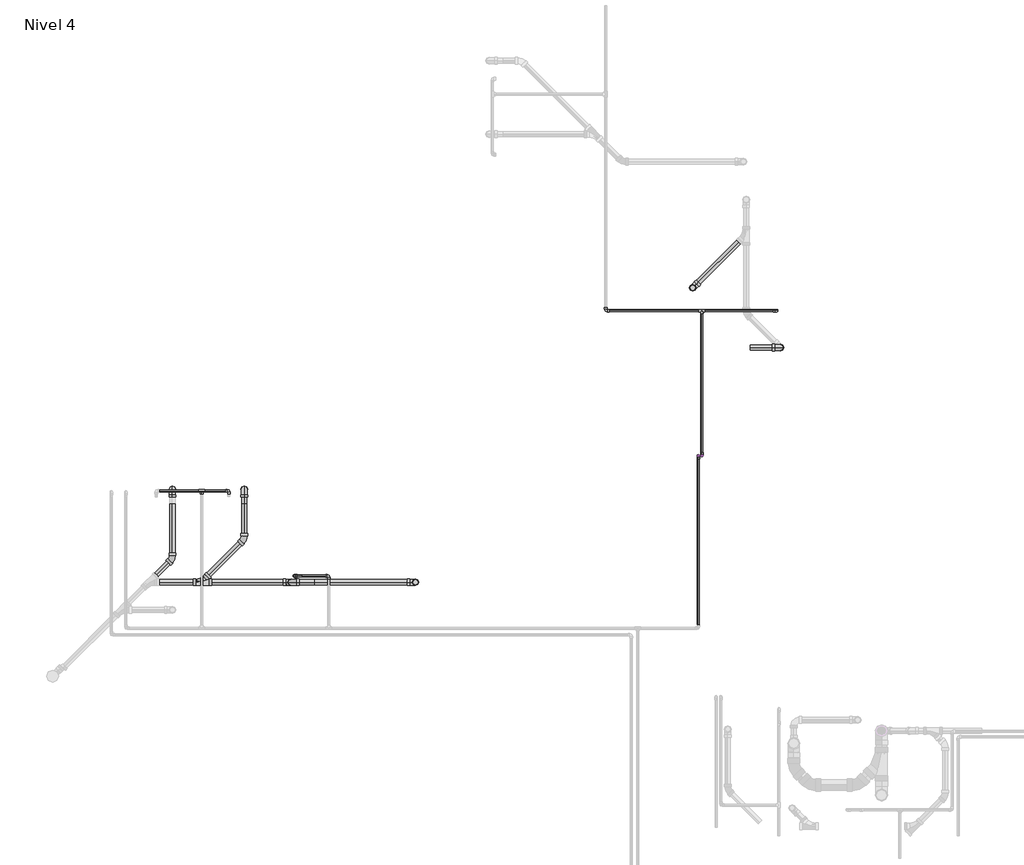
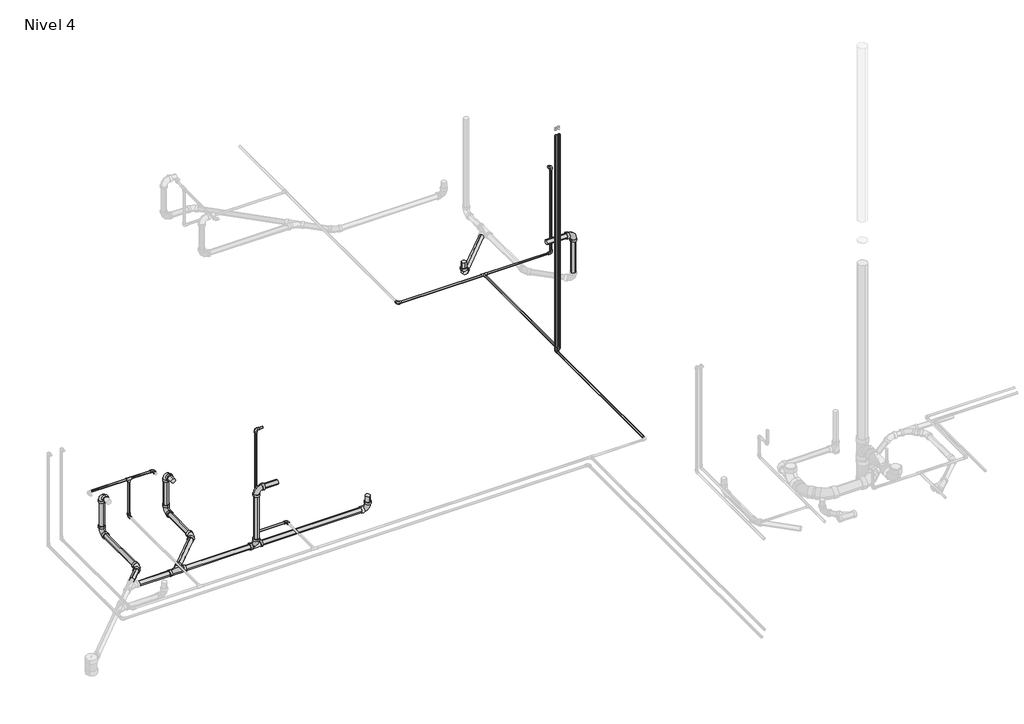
# One storey, part 5 of 9: 32 pipe segments, 24 pipe fittings.
"""IFC4 building model written with IfcOpenShell, lengths in millimetres."""

from ifc_helpers import new_model, si_unit, point, frame, frame_2d, origin, place, context, project, spatial, circle_curve, trimmed, segment, composite_curve, outline, extrude, transform, mapped, element, save
from components import pipe_fitting_ab418b84, pipe_fitting_0163322b, pipe_fitting_6ef1482d, m_codo_pvc_serie_40_9ad74631, m_codo_pvc_serie_40_dwv1_5c0ec739, m_codo_pvc_serie_40_dwv1_6f1a2495

model = new_model("IFC4")

# Units and contexts
model_context = context("Model", 3, world=origin())
ifc_project = project(units=[si_unit("LENGTHUNIT", "METRE", prefix="MILLI")], contexts=[model_context])

# Site, building, storey
site = spatial("IfcSite", under=ifc_project)
building = spatial("IfcBuilding", under=site)
storey = spatial("IfcBuildingStorey", under=building, Name="Nivel 4", Elevation=8100.0)

# Pipe fittings
placement = place(None, origin())
pipe_fitting_shape = pipe_fitting_ab418b84(model_context)
element("IfcPipeFitting", 1, ObjectType="M_Te - PVC - Serie 40 : Estándar", at=placement, inside=storey, context=model_context, shape_type="MappedRepresentation", body=[
    mapped(pipe_fitting_shape, transform((411.6630441, 9037.0181394, 8500.0), x_axis=(-1.0, 0.0, 0.0), y_axis=(0.0, 0.0, 1.0), z_axis=(0.0, 1.0, 0.0))),
])
element("IfcPipeFitting", 2, ObjectType="M_Te - PVC - Serie 40 : Estándar", at=placement, inside=storey, context=model_context, shape_type="MappedRepresentation", body=[
    mapped(pipe_fitting_shape, transform((5577.0674476, 10897.0181394, 8050.0), x_axis=(1.0, 0.0, 0.0), y_axis=(0.0, 1.0, 0.0), z_axis=(0.0, 0.0, 1.0))),
])
pipe_fitting_2_shape = pipe_fitting_0163322b(model_context)
element("IfcPipeFitting", 3, ObjectType="M_Sanitario con te de reducción - PVC - Serie 40 - DWV : Estándar", at=placement, inside=storey, context=model_context, shape_type="MappedRepresentation", body=[
    mapped(pipe_fitting_2_shape, transform((406.2028878, 8091.4220022, 7950.0), x_axis=(1.0, 0.0, 0.0), y_axis=(0.0, -1.0, 0.0), z_axis=(0.0, 0.0, -1.0))),
])
pipe_fitting_3_shape = pipe_fitting_6ef1482d(model_context)
element("IfcPipeFitting", 4, ObjectType="M_Sanitario con te de reducción - PVC - Serie 40 - DWV : Estándar", at=placement, inside=storey, context=model_context, shape_type="MappedRepresentation", body=[
    mapped(pipe_fitting_3_shape, transform((1335.9354338, 8091.4220022, 7950.0), x_axis=(1.0, 0.0, 0.0), y_axis=(0.0, 0.0, -1.0), z_axis=(0.0, 1.0, 0.0))),
])
m_codo_pvc_serie_40_shape = m_codo_pvc_serie_40_9ad74631(model_context)
element("IfcPipeFitting", 5, ObjectType="M_Codo - PVC - Serie 40 : Estándar", at=placement, inside=storey, context=model_context, shape_type="MappedRepresentation", body=[
    mapped(m_codo_pvc_serie_40_shape, transform((1725.1353284, 8157.0181394, 8050.0), x_axis=(0.0, 1.0, 0.0), y_axis=(-1.0, 0.0, 0.0), z_axis=(0.0, 0.0, 1.0))),
])
element("IfcPipeFitting", 6, ObjectType="M_Codo - PVC - Serie 40 : Estándar", at=placement, inside=storey, context=model_context, shape_type="MappedRepresentation", body=[
    mapped(m_codo_pvc_serie_40_shape, transform((1365.1353284, 8157.0181394, 8050.0), x_axis=(-1.0, 0.0, 0.0), y_axis=(0.0, 0.0, 1.0), z_axis=(0.0, 1.0, 0.0))),
])
element("IfcPipeFitting", 7, ObjectType="M_Codo - PVC - Serie 40 : Estándar", at=placement, inside=storey, context=model_context, shape_type="MappedRepresentation", body=[
    mapped(m_codo_pvc_serie_40_shape, transform((1365.1353284, 8157.0181394, 9300.0), x_axis=(0.0, 0.0, 1.0), y_axis=(1.0, 0.0, 0.0), z_axis=(0.0, 1.0, 0.0))),
])
element("IfcPipeFitting", 8, ObjectType="M_Codo - PVC - Serie 40 : Estándar", at=placement, inside=storey, context=model_context, shape_type="MappedRepresentation", body=[
    mapped(m_codo_pvc_serie_40_shape, transform((411.6630441, 9037.0181394, 8050.0), x_axis=(0.0, 1.0, 0.0), y_axis=(0.0, 0.0, 1.0), z_axis=(1.0, 0.0, 0.0))),
])
element("IfcPipeFitting", 9, ObjectType="M_Codo - PVC - Serie 40 : Estándar", at=placement, inside=storey, context=model_context, shape_type="MappedRepresentation", body=[
    mapped(m_codo_pvc_serie_40_shape, transform((691.6630441, 9037.0181394, 8500.0), x_axis=(0.0, 1.0, 0.0), y_axis=(-1.0, 0.0, 0.0), z_axis=(0.0, 0.0, 1.0))),
])
element("IfcPipeFitting", 10, ObjectType="M_Codo - PVC - Serie 40 : Estándar", at=placement, inside=storey, context=model_context, shape_type="MappedRepresentation", body=[
    mapped(m_codo_pvc_serie_40_shape, transform((4584.5674476, 10897.0181394, 8050.0), x_axis=(0.0, -1.0, 0.0), y_axis=(1.0, 0.0, 0.0), z_axis=(0.0, 0.0, 1.0))),
])
element("IfcPipeFitting", 11, ObjectType="M_Codo - PVC - Serie 40 : Estándar", at=placement, inside=storey, context=model_context, shape_type="MappedRepresentation", body=[
    mapped(m_codo_pvc_serie_40_shape, transform((6348.7776039, 10897.0181394, 8050.0), x_axis=(1.0, 0.0, 0.0), y_axis=(0.0, 0.0, 1.0), z_axis=(0.0, -1.0, 0.0))),
])
element("IfcPipeFitting", 12, ObjectType="M_Codo - PVC - Serie 40 : Estándar", at=placement, inside=storey, context=model_context, shape_type="MappedRepresentation", body=[
    mapped(m_codo_pvc_serie_40_shape, transform((6348.7776039, 10897.0181394, 9100.0), x_axis=(0.0, 0.0, 1.0), y_axis=(-1.0, 0.0, 0.0), z_axis=(0.0, -1.0, 0.0))),
])
element("IfcPipeFitting", 13, ObjectType="M_Codo - PVC - Serie 40 : Estándar", at=placement, inside=storey, context=model_context, shape_type="MappedRepresentation", body=[
    mapped(m_codo_pvc_serie_40_shape, transform((5541.6630441, 9398.2681394, 8050.0), x_axis=(0.0, 1.0, 0.0), y_axis=(0.0, 0.0, 1.0), z_axis=(1.0, 0.0, 0.0))),
])
element("IfcPipeFitting", 14, ObjectType="M_Codo - PVC - Serie 40 : Estándar", at=placement, inside=storey, context=model_context, shape_type="MappedRepresentation", body=[
    mapped(m_codo_pvc_serie_40_shape, transform((5577.0674476, 9399.5181394, 8050.0), x_axis=(0.0, -1.0, 0.0), y_axis=(0.0, 0.0, 1.0), z_axis=(-1.0, 0.0, 0.0))),
])
m_codo_pvc_serie_40_dwv1_shape = m_codo_pvc_serie_40_dwv1_5c0ec739(model_context)
element("IfcPipeFitting", 15, ObjectType="M_Codo - PVC - Serie 40 - DWV1 : Estándar 2", at=placement, inside=storey, context=model_context, shape_type="MappedRepresentation", body=[
    mapped(m_codo_pvc_serie_40_dwv1_shape, transform((6387.7966771, 10516.9594307, 8500.0), x_axis=(1.0, 0.0, 0.0), y_axis=(0.0, 0.0, -1.0), z_axis=(0.0, 1.0, 0.0))),
])
element("IfcPipeFitting", 16, ObjectType="M_Codo - PVC - Serie 40 - DWV1 : Estándar 2", at=placement, inside=storey, context=model_context, shape_type="MappedRepresentation", body=[
    mapped(m_codo_pvc_serie_40_dwv1_shape, transform((5482.7118337, 11133.8085879, 7950.0), x_axis=(-0.7071067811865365, -0.7071067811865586, 0.0), y_axis=(0.0, 0.0, 1.0), z_axis=(-0.7071067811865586, 0.7071067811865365, 0.0))),
])
element("IfcPipeFitting", 17, ObjectType="M_Codo - PVC - Serie 40 - DWV1 : Estándar 2", at=placement, inside=storey, context=model_context, shape_type="MappedRepresentation", body=[
    mapped(m_codo_pvc_serie_40_dwv1_shape, transform((109.5958692, 9052.7311146, 8400.0), x_axis=(0.0, 1.0, 0.0), y_axis=(0.0, 0.0, -1.0), z_axis=(-1.0, 0.0, 0.0))),
])
element("IfcPipeFitting", 18, ObjectType="M_Codo - PVC - Serie 40 - DWV1 : Estándar 2", at=placement, inside=storey, context=model_context, shape_type="MappedRepresentation", body=[
    mapped(m_codo_pvc_serie_40_dwv1_shape, transform((109.5958692, 9052.7311146, 7950.0), x_axis=(0.0, 0.0, -1.0), y_axis=(0.0, -1.0, 0.0), z_axis=(-1.0, 0.0, 0.0))),
])
element("IfcPipeFitting", 19, ObjectType="M_Codo - PVC - Serie 40 - DWV1 : Estándar 2", at=placement, inside=storey, context=model_context, shape_type="MappedRepresentation", body=[
    mapped(m_codo_pvc_serie_40_dwv1_shape, transform((849.5958692, 9052.7311146, 8400.0), x_axis=(0.0, 1.0, 0.0), y_axis=(0.0, 0.0, -1.0), z_axis=(-1.0, 0.0, 0.0))),
])
element("IfcPipeFitting", 20, ObjectType="M_Codo - PVC - Serie 40 - DWV1 : Estándar 2", at=placement, inside=storey, context=model_context, shape_type="MappedRepresentation", body=[
    mapped(m_codo_pvc_serie_40_dwv1_shape, transform((849.5958692, 9052.7311146, 7950.0), x_axis=(0.0, 0.0, -1.0), y_axis=(0.0, -1.0, 0.0), z_axis=(-1.0, 0.0, 0.0))),
])
element("IfcPipeFitting", 21, ObjectType="M_Codo - PVC - Serie 40 - DWV1 : Estándar 2", at=placement, inside=storey, context=model_context, shape_type="MappedRepresentation", body=[
    mapped(m_codo_pvc_serie_40_dwv1_shape, transform((1335.9354338, 8091.4220022, 8630.0), x_axis=(0.0, 0.0, 1.0), y_axis=(1.0, 0.0, 0.0), z_axis=(0.0, 1.0, 0.0))),
])
element("IfcPipeFitting", 22, ObjectType="M_Codo - PVC - Serie 40 - DWV1 : Estándar 2", at=placement, inside=storey, context=model_context, shape_type="MappedRepresentation", body=[
    mapped(m_codo_pvc_serie_40_dwv1_shape, transform((2619.133962, 8091.4220022, 7950.0), x_axis=(0.0, 0.0, -1.0), y_axis=(-1.0, 0.0, 0.0), z_axis=(0.0, 1.0, 0.0))),
])
m_codo_pvc_serie_40_dwv1_2_shape = m_codo_pvc_serie_40_dwv1_6f1a2495(model_context)
element("IfcPipeFitting", 23, ObjectType="M_Codo - PVC - Serie 40 - DWV1 : Estándar 2", at=placement, inside=storey, context=model_context, shape_type="MappedRepresentation", body=[
    mapped(m_codo_pvc_serie_40_dwv1_2_shape, transform((109.5958692, 8334.8149836, 7950.0), x_axis=(0.7071067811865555, 0.7071067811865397, 0.0), y_axis=(-0.7071067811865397, 0.7071067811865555, 0.0), z_axis=(0.0, 0.0, 1.0))),
])
element("IfcPipeFitting", 24, ObjectType="M_Codo - PVC - Serie 40 - DWV1 : Estándar 2", at=placement, inside=storey, context=model_context, shape_type="MappedRepresentation", body=[
    mapped(m_codo_pvc_serie_40_dwv1_2_shape, transform((849.5958692, 8534.8149836, 7950.0), x_axis=(0.7071067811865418, 0.7071067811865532, 0.0), y_axis=(-0.7071067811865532, 0.7071067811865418, 0.0), z_axis=(0.0, 0.0, 1.0))),
])

# Pipe segments
element("IfcPipeSegment", 25, ObjectType="Tuberia PVC Agua Fria", at=placement, inside=storey, context=model_context, shape_type="SweptSolid", body=[
    extrude(outline(composite_curve([segment(trimmed(circle_curve(frame_2d((8050.0, 5541.6630441)), 10.31875), [point((8050.0, 5551.9817941))], [point((8060.31875, 5541.6630441))], False, "CARTESIAN"), True, "CONTINUOUS"), segment(trimmed(circle_curve(frame_2d((8050.0, 5541.6630441)), 10.31875), [point((8060.31875, 5541.6630441))], [point((8050.0, 5531.3442941))], False, "CARTESIAN"), True, "CONTINUOUS"), segment(trimmed(circle_curve(frame_2d((8050.0, 5541.6630441)), 10.31875), [point((8050.0, 5531.3442941))], [point((8039.68125, 5541.6630441))], False, "CARTESIAN"), True, "CONTINUOUS"), segment(trimmed(circle_curve(frame_2d((8050.0, 5541.6630441)), 10.31875), [point((8039.68125, 5541.6630441))], [point((8050.0, 5551.9817941))], False, "CARTESIAN"), True, "CONTINUOUS")], self_intersect=False)), frame((0.0, 7650.4191394, 0.0), z_axis=(0.0, 1.0, 0.0), x_axis=(0.0, 0.0, 1.0)), (0.0, 0.0, 1.0), 1714.448),
])
element("IfcPipeSegment", 26, ObjectType="Tuberia PVC Agua Fria", at=placement, inside=storey, context=model_context, shape_type="SweptSolid", body=[
    extrude(outline(composite_curve([segment(trimmed(circle_curve(frame_2d((8157.0181394, 8050.0)), 10.31875), [point((8167.3368894, 8050.0))], [point((8157.0181394, 8039.68125))], False, "CARTESIAN"), True, "CONTINUOUS"), segment(trimmed(circle_curve(frame_2d((8157.0181394, 8050.0)), 10.31875), [point((8157.0181394, 8039.68125))], [point((8146.6993894, 8050.0))], False, "CARTESIAN"), True, "CONTINUOUS"), segment(trimmed(circle_curve(frame_2d((8157.0181394, 8050.0)), 10.31875), [point((8146.6993894, 8050.0))], [point((8157.0181394, 8060.31875))], False, "CARTESIAN"), True, "CONTINUOUS"), segment(trimmed(circle_curve(frame_2d((8157.0181394, 8050.0)), 10.31875), [point((8157.0181394, 8060.31875))], [point((8167.3368894, 8050.0))], False, "CARTESIAN"), True, "CONTINUOUS")], self_intersect=False)), frame((1398.5363284, 0.0, 0.0), z_axis=(1.0, 0.0, 0.0), x_axis=(0.0, 1.0, 0.0)), (0.0, 0.0, 1.0), 293.198),
])
element("IfcPipeSegment", 27, ObjectType="Tuberia PVC Agua Fria", at=placement, inside=storey, context=model_context, shape_type="SweptSolid", body=[
    extrude(outline(composite_curve([segment(trimmed(circle_curve(frame_2d((8157.0181394, 9300.0)), 10.31875), [point((8146.6993894, 9300.0))], [point((8157.0181394, 9310.31875))], False, "CARTESIAN"), True, "CONTINUOUS"), segment(trimmed(circle_curve(frame_2d((8157.0181394, 9300.0)), 10.31875), [point((8157.0181394, 9310.31875))], [point((8167.3368894, 9300.0))], False, "CARTESIAN"), True, "CONTINUOUS"), segment(trimmed(circle_curve(frame_2d((8157.0181394, 9300.0)), 10.31875), [point((8167.3368894, 9300.0))], [point((8157.0181394, 9289.68125))], False, "CARTESIAN"), True, "CONTINUOUS"), segment(trimmed(circle_curve(frame_2d((8157.0181394, 9300.0)), 10.31875), [point((8157.0181394, 9289.68125))], [point((8146.6993894, 9300.0))], False, "CARTESIAN"), True, "CONTINUOUS")], self_intersect=False)), frame((1398.5363284, 0.0, 0.0), z_axis=(1.0, 0.0, 0.0), x_axis=(0.0, 1.0, 0.0)), (0.0, 0.0, 1.0), 46.599),
])
element("IfcPipeSegment", 28, ObjectType="Tuberia PVC Agua Fria", at=placement, inside=storey, context=model_context, shape_type="SweptSolid", body=[
    extrude(outline(composite_curve([segment(trimmed(circle_curve(frame_2d((1365.1353284, 8157.0181394)), 10.31875), [point((1354.8165784, 8157.0181394))], [point((1365.1353284, 8167.3368894))], False, "CARTESIAN"), True, "CONTINUOUS"), segment(trimmed(circle_curve(frame_2d((1365.1353284, 8157.0181394)), 10.31875), [point((1365.1353284, 8167.3368894))], [point((1375.4540784, 8157.0181394))], False, "CARTESIAN"), True, "CONTINUOUS"), segment(trimmed(circle_curve(frame_2d((1365.1353284, 8157.0181394)), 10.31875), [point((1375.4540784, 8157.0181394))], [point((1365.1353284, 8146.6993894))], False, "CARTESIAN"), True, "CONTINUOUS"), segment(trimmed(circle_curve(frame_2d((1365.1353284, 8157.0181394)), 10.31875), [point((1365.1353284, 8146.6993894))], [point((1354.8165784, 8157.0181394))], False, "CARTESIAN"), True, "CONTINUOUS")], self_intersect=False)), frame((0.0, 0.0, 8083.401), z_axis=(0.0, 0.0, 1.0), x_axis=(1.0, 0.0, 0.0)), (0.0, 0.0, 1.0), 1183.198),
])
element("IfcPipeSegment", 29, ObjectType="Tuberia PVC Agua Fria", at=placement, inside=storey, context=model_context, shape_type="SweptSolid", body=[
    extrude(outline(composite_curve([segment(trimmed(circle_curve(frame_2d((9037.0181394, 8500.0)), 10.31875), [point((9026.6993894, 8500.0))], [point((9037.0181394, 8510.31875))], False, "CARTESIAN"), True, "CONTINUOUS"), segment(trimmed(circle_curve(frame_2d((9037.0181394, 8500.0)), 10.31875), [point((9037.0181394, 8510.31875))], [point((9047.3368894, 8500.0))], False, "CARTESIAN"), True, "CONTINUOUS"), segment(trimmed(circle_curve(frame_2d((9037.0181394, 8500.0)), 10.31875), [point((9047.3368894, 8500.0))], [point((9037.0181394, 8489.68125))], False, "CARTESIAN"), True, "CONTINUOUS"), segment(trimmed(circle_curve(frame_2d((9037.0181394, 8500.0)), 10.31875), [point((9037.0181394, 8489.68125))], [point((9026.6993894, 8500.0))], False, "CARTESIAN"), True, "CONTINUOUS")], self_intersect=False)), frame((442.1232003, 0.0, 0.0), z_axis=(1.0, 0.0, 0.0), x_axis=(0.0, 1.0, 0.0)), (0.0, 0.0, 1.0), 216.1388438),
])
element("IfcPipeSegment", 30, ObjectType="Tuberia PVC Agua Fria", at=placement, inside=storey, context=model_context, shape_type="SweptSolid", body=[
    extrude(outline(composite_curve([segment(trimmed(circle_curve(frame_2d((411.6630441, 9037.0181394)), 10.31875), [point((401.3442941, 9037.0181394))], [point((411.6630441, 9047.3368894))], False, "CARTESIAN"), True, "CONTINUOUS"), segment(trimmed(circle_curve(frame_2d((411.6630441, 9037.0181394)), 10.31875), [point((411.6630441, 9047.3368894))], [point((421.9817941, 9037.0181394))], False, "CARTESIAN"), True, "CONTINUOUS"), segment(trimmed(circle_curve(frame_2d((411.6630441, 9037.0181394)), 10.31875), [point((421.9817941, 9037.0181394))], [point((411.6630441, 9026.6993894))], False, "CARTESIAN"), True, "CONTINUOUS"), segment(trimmed(circle_curve(frame_2d((411.6630441, 9037.0181394)), 10.31875), [point((411.6630441, 9026.6993894))], [point((401.3442941, 9037.0181394))], False, "CARTESIAN"), True, "CONTINUOUS")], self_intersect=False)), frame((0.0, 0.0, 8083.401), z_axis=(0.0, 0.0, 1.0), x_axis=(1.0, 0.0, 0.0)), (0.0, 0.0, 1.0), 386.1388438),
])
element("IfcPipeSegment", 31, ObjectType="Tuberia PVC Agua Fria", at=placement, inside=storey, context=model_context, shape_type="SweptSolid", body=[
    extrude(outline(composite_curve([segment(trimmed(circle_curve(frame_2d((9037.0181394, 8500.0)), 10.31875), [point((9047.3368894, 8500.0))], [point((9037.0181394, 8489.68125))], False, "CARTESIAN"), True, "CONTINUOUS"), segment(trimmed(circle_curve(frame_2d((9037.0181394, 8500.0)), 10.31875), [point((9037.0181394, 8489.68125))], [point((9026.6993894, 8500.0))], False, "CARTESIAN"), True, "CONTINUOUS"), segment(trimmed(circle_curve(frame_2d((9037.0181394, 8500.0)), 10.31875), [point((9026.6993894, 8500.0))], [point((9037.0181394, 8510.31875))], False, "CARTESIAN"), True, "CONTINUOUS"), segment(trimmed(circle_curve(frame_2d((9037.0181394, 8500.0)), 10.31875), [point((9037.0181394, 8510.31875))], [point((9047.3368894, 8500.0))], False, "CARTESIAN"), True, "CONTINUOUS")], self_intersect=False)), frame((-25.3961122, 0.0, 0.0), z_axis=(1.0, 0.0, 0.0), x_axis=(0.0, 1.0, 0.0)), (0.0, 0.0, 1.0), 406.599),
])
element("IfcPipeSegment", 32, ObjectType="Tuberia PVC Agua Fria", at=placement, inside=storey, context=model_context, shape_type="SweptSolid", body=[
    extrude(outline(composite_curve([segment(trimmed(circle_curve(frame_2d((8050.0, 5577.0674476)), 10.31875), [point((8050.0, 5587.3861976))], [point((8060.31875, 5577.0674476))], False, "CARTESIAN"), True, "CONTINUOUS"), segment(trimmed(circle_curve(frame_2d((8050.0, 5577.0674476)), 10.31875), [point((8060.31875, 5577.0674476))], [point((8050.0, 5566.7486976))], False, "CARTESIAN"), True, "CONTINUOUS"), segment(trimmed(circle_curve(frame_2d((8050.0, 5577.0674476)), 10.31875), [point((8050.0, 5566.7486976))], [point((8039.68125, 5577.0674476))], False, "CARTESIAN"), True, "CONTINUOUS"), segment(trimmed(circle_curve(frame_2d((8050.0, 5577.0674476)), 10.31875), [point((8039.68125, 5577.0674476))], [point((8050.0, 5587.3861976))], False, "CARTESIAN"), True, "CONTINUOUS")], self_intersect=False)), frame((0.0, 9432.9191394, 0.0), z_axis=(0.0, 1.0, 0.0), x_axis=(0.0, 0.0, 1.0)), (0.0, 0.0, 1.0), 1433.6388437),
])
element("IfcPipeSegment", 33, ObjectType="Tuberia PVC Agua Fria", at=placement, inside=storey, context=model_context, shape_type="SweptSolid", body=[
    extrude(outline(composite_curve([segment(trimmed(circle_curve(frame_2d((10897.0181394, 8050.0)), 10.31875), [point((10907.3368894, 8050.0))], [point((10897.0181394, 8039.68125))], False, "CARTESIAN"), True, "CONTINUOUS"), segment(trimmed(circle_curve(frame_2d((10897.0181394, 8050.0)), 10.31875), [point((10897.0181394, 8039.68125))], [point((10886.6993894, 8050.0))], False, "CARTESIAN"), True, "CONTINUOUS"), segment(trimmed(circle_curve(frame_2d((10897.0181394, 8050.0)), 10.31875), [point((10886.6993894, 8050.0))], [point((10897.0181394, 8060.31875))], False, "CARTESIAN"), True, "CONTINUOUS"), segment(trimmed(circle_curve(frame_2d((10897.0181394, 8050.0)), 10.31875), [point((10897.0181394, 8060.31875))], [point((10907.3368894, 8050.0))], False, "CARTESIAN"), True, "CONTINUOUS")], self_intersect=False)), frame((4617.9684476, 0.0, 0.0), z_axis=(1.0, 0.0, 0.0), x_axis=(0.0, 1.0, 0.0)), (0.0, 0.0, 1.0), 928.6388438),
])
element("IfcPipeSegment", 34, ObjectType="Tuberia PVC Agua Fria", at=placement, inside=storey, context=model_context, shape_type="SweptSolid", body=[
    extrude(outline(composite_curve([segment(trimmed(circle_curve(frame_2d((10897.0181394, 8050.0)), 10.31875), [point((10886.6993894, 8050.0))], [point((10897.0181394, 8060.31875))], False, "CARTESIAN"), True, "CONTINUOUS"), segment(trimmed(circle_curve(frame_2d((10897.0181394, 8050.0)), 10.31875), [point((10897.0181394, 8060.31875))], [point((10907.3368894, 8050.0))], False, "CARTESIAN"), True, "CONTINUOUS"), segment(trimmed(circle_curve(frame_2d((10897.0181394, 8050.0)), 10.31875), [point((10907.3368894, 8050.0))], [point((10897.0181394, 8039.68125))], False, "CARTESIAN"), True, "CONTINUOUS"), segment(trimmed(circle_curve(frame_2d((10897.0181394, 8050.0)), 10.31875), [point((10897.0181394, 8039.68125))], [point((10886.6993894, 8050.0))], False, "CARTESIAN"), True, "CONTINUOUS")], self_intersect=False)), frame((5607.5276039, 0.0, 0.0), z_axis=(1.0, 0.0, 0.0), x_axis=(0.0, 1.0, 0.0)), (0.0, 0.0, 1.0), 707.849),
])
element("IfcPipeSegment", 35, ObjectType="Tuberia PVC Agua Fria", at=placement, inside=storey, context=model_context, shape_type="SweptSolid", body=[
    extrude(outline(composite_curve([segment(trimmed(circle_curve(frame_2d((6348.7776039, 10897.0181394)), 10.31875), [point((6338.4588539, 10897.0181394))], [point((6348.7776039, 10907.3368894))], False, "CARTESIAN"), True, "CONTINUOUS"), segment(trimmed(circle_curve(frame_2d((6348.7776039, 10897.0181394)), 10.31875), [point((6348.7776039, 10907.3368894))], [point((6359.0963539, 10897.0181394))], False, "CARTESIAN"), True, "CONTINUOUS"), segment(trimmed(circle_curve(frame_2d((6348.7776039, 10897.0181394)), 10.31875), [point((6359.0963539, 10897.0181394))], [point((6348.7776039, 10886.6993894))], False, "CARTESIAN"), True, "CONTINUOUS"), segment(trimmed(circle_curve(frame_2d((6348.7776039, 10897.0181394)), 10.31875), [point((6348.7776039, 10886.6993894))], [point((6338.4588539, 10897.0181394))], False, "CARTESIAN"), True, "CONTINUOUS")], self_intersect=False)), frame((0.0, 0.0, 8083.401), z_axis=(0.0, 0.0, 1.0), x_axis=(1.0, 0.0, 0.0)), (0.0, 0.0, 1.0), 983.198),
])
element("IfcPipeSegment", 36, ObjectType="Tuberia PVC Agua Fria", at=placement, inside=storey, context=model_context, shape_type="SweptSolid", body=[
    extrude(outline(composite_curve([segment(trimmed(circle_curve(frame_2d((5541.6630441, 9398.2681394)), 10.31875), [point((5531.3442941, 9398.2681394))], [point((5541.6630441, 9408.5868894))], False, "CARTESIAN"), True, "CONTINUOUS"), segment(trimmed(circle_curve(frame_2d((5541.6630441, 9398.2681394)), 10.31875), [point((5541.6630441, 9408.5868894))], [point((5551.9817941, 9398.2681394))], False, "CARTESIAN"), True, "CONTINUOUS"), segment(trimmed(circle_curve(frame_2d((5541.6630441, 9398.2681394)), 10.31875), [point((5551.9817941, 9398.2681394))], [point((5541.6630441, 9387.9493894))], False, "CARTESIAN"), True, "CONTINUOUS"), segment(trimmed(circle_curve(frame_2d((5541.6630441, 9398.2681394)), 10.31875), [point((5541.6630441, 9387.9493894))], [point((5531.3442941, 9398.2681394))], False, "CARTESIAN"), True, "CONTINUOUS")], self_intersect=False)), frame((0.0, 0.0, 10730.4601563), z_axis=(0.0, 0.0, 1.0), x_axis=(1.0, 0.0, 0.0)), (0.0, 0.0, 1.0), 30.7244062),
])
element("IfcPipeSegment", 37, ObjectType="Tuberia PVC Agua Fria", at=placement, inside=storey, context=model_context, shape_type="SweptSolid", body=[
    extrude(outline(composite_curve([segment(trimmed(circle_curve(frame_2d((5577.0674476, 9399.5181394)), 10.31875), [point((5566.7486976, 9399.5181394))], [point((5577.0674476, 9409.8368894))], False, "CARTESIAN"), True, "CONTINUOUS"), segment(trimmed(circle_curve(frame_2d((5577.0674476, 9399.5181394)), 10.31875), [point((5577.0674476, 9409.8368894))], [point((5587.3861976, 9399.5181394))], False, "CARTESIAN"), True, "CONTINUOUS"), segment(trimmed(circle_curve(frame_2d((5577.0674476, 9399.5181394)), 10.31875), [point((5587.3861976, 9399.5181394))], [point((5577.0674476, 9389.1993894))], False, "CARTESIAN"), True, "CONTINUOUS"), segment(trimmed(circle_curve(frame_2d((5577.0674476, 9399.5181394)), 10.31875), [point((5577.0674476, 9389.1993894))], [point((5566.7486976, 9399.5181394))], False, "CARTESIAN"), True, "CONTINUOUS")], self_intersect=False)), frame((0.0, 0.0, 10730.4601563), z_axis=(0.0, 0.0, 1.0), x_axis=(1.0, 0.0, 0.0)), (0.0, 0.0, 1.0), 30.7244062),
])
element("IfcPipeSegment", 38, ObjectType="Tuberia PVC Agua Fria", at=placement, inside=storey, context=model_context, shape_type="SweptSolid", body=[
    extrude(outline(composite_curve([segment(trimmed(circle_curve(frame_2d((5541.6630441, 9398.2681394)), 10.31875), [point((5531.3442941, 9398.2681394))], [point((5541.6630441, 9408.5868894))], False, "CARTESIAN"), True, "CONTINUOUS"), segment(trimmed(circle_curve(frame_2d((5541.6630441, 9398.2681394)), 10.31875), [point((5541.6630441, 9408.5868894))], [point((5551.9817941, 9398.2681394))], False, "CARTESIAN"), True, "CONTINUOUS"), segment(trimmed(circle_curve(frame_2d((5541.6630441, 9398.2681394)), 10.31875), [point((5551.9817941, 9398.2681394))], [point((5541.6630441, 9387.9493894))], False, "CARTESIAN"), True, "CONTINUOUS"), segment(trimmed(circle_curve(frame_2d((5541.6630441, 9398.2681394)), 10.31875), [point((5541.6630441, 9387.9493894))], [point((5531.3442941, 9398.2681394))], False, "CARTESIAN"), True, "CONTINUOUS")], self_intersect=False)), frame((0.0, 0.0, 8083.401), z_axis=(0.0, 0.0, 1.0), x_axis=(1.0, 0.0, 0.0)), (0.0, 0.0, 1.0), 2586.1388438),
])
element("IfcPipeSegment", 39, ObjectType="Tuberia PVC Agua Fria", at=placement, inside=storey, context=model_context, shape_type="SweptSolid", body=[
    extrude(outline(composite_curve([segment(trimmed(circle_curve(frame_2d((5577.0674476, 9399.5181394)), 10.31875), [point((5566.7486976, 9399.5181394))], [point((5577.0674476, 9409.8368894))], False, "CARTESIAN"), True, "CONTINUOUS"), segment(trimmed(circle_curve(frame_2d((5577.0674476, 9399.5181394)), 10.31875), [point((5577.0674476, 9409.8368894))], [point((5587.3861976, 9399.5181394))], False, "CARTESIAN"), True, "CONTINUOUS"), segment(trimmed(circle_curve(frame_2d((5577.0674476, 9399.5181394)), 10.31875), [point((5587.3861976, 9399.5181394))], [point((5577.0674476, 9389.1993894))], False, "CARTESIAN"), True, "CONTINUOUS"), segment(trimmed(circle_curve(frame_2d((5577.0674476, 9399.5181394)), 10.31875), [point((5577.0674476, 9389.1993894))], [point((5566.7486976, 9399.5181394))], False, "CARTESIAN"), True, "CONTINUOUS")], self_intersect=False)), frame((0.0, 0.0, 8083.401), z_axis=(0.0, 0.0, 1.0), x_axis=(1.0, 0.0, 0.0)), (0.0, 0.0, 1.0), 2586.1388438),
])
element("IfcPipeSegment", 40, ObjectType="Tuberia PVC Sanitario", at=placement, inside=storey, context=model_context, shape_type="SweptSolid", body=[
    extrude(outline(composite_curve([segment(trimmed(circle_curve(frame_2d((10516.9594307, 8500.0)), 26.9875), [point((10543.9469307, 8500.0))], [point((10516.9594307, 8473.0125))], False, "CARTESIAN"), True, "CONTINUOUS"), segment(trimmed(circle_curve(frame_2d((10516.9594307, 8500.0)), 26.9875), [point((10516.9594307, 8473.0125))], [point((10489.9719307, 8500.0))], False, "CARTESIAN"), True, "CONTINUOUS"), segment(trimmed(circle_curve(frame_2d((10516.9594307, 8500.0)), 26.9875), [point((10489.9719307, 8500.0))], [point((10516.9594307, 8526.9875))], False, "CARTESIAN"), True, "CONTINUOUS"), segment(trimmed(circle_curve(frame_2d((10516.9594307, 8500.0)), 26.9875), [point((10516.9594307, 8526.9875))], [point((10543.9469307, 8500.0))], False, "CARTESIAN"), True, "CONTINUOUS")], self_intersect=False)), frame((6077.7966771, 0.0, 0.0), z_axis=(1.0, 0.0, 0.0), x_axis=(0.0, 1.0, 0.0)), (0.0, 0.0, 1.0), 227.4579375),
])
element("IfcPipeSegment", 41, ObjectType="Tuberia PVC Sanitario", at=placement, inside=storey, context=model_context, shape_type="SweptSolid", body=[
    extrude(outline(composite_curve([segment(trimmed(circle_curve(frame_2d((6387.7966771, 10516.9594307)), 26.9875), [point((6414.7841771, 10516.9594307))], [point((6387.7966771, 10489.9719307))], False, "CARTESIAN"), True, "CONTINUOUS"), segment(trimmed(circle_curve(frame_2d((6387.7966771, 10516.9594307)), 26.9875), [point((6387.7966771, 10489.9719307))], [point((6360.8091771, 10516.9594307))], False, "CARTESIAN"), True, "CONTINUOUS"), segment(trimmed(circle_curve(frame_2d((6387.7966771, 10516.9594307)), 26.9875), [point((6360.8091771, 10516.9594307))], [point((6387.7966771, 10543.9469307))], False, "CARTESIAN"), True, "CONTINUOUS"), segment(trimmed(circle_curve(frame_2d((6387.7966771, 10516.9594307)), 26.9875), [point((6387.7966771, 10543.9469307))], [point((6414.7841771, 10516.9594307))], False, "CARTESIAN"), True, "CONTINUOUS")], self_intersect=False)), frame((0.0, 0.0, 8032.5420625), z_axis=(0.0, 0.0, 1.0), x_axis=(1.0, 0.0, 0.0)), (0.0, 0.0, 1.0), 384.915875),
])
element("IfcPipeSegment", 42, ObjectType="Tuberia PVC Sanitario", at=placement, inside=storey, context=model_context, shape_type="SweptSolid", body=[
    extrude(outline(composite_curve([segment(trimmed(circle_curve(frame_2d((0.0, -26.9875)), 26.9875), [point((-26.9875001, -26.9875))], [point((0.0, 0.0))], False, "CARTESIAN"), True, "CONTINUOUS"), segment(trimmed(circle_curve(frame_2d((0.0, -26.9875)), 26.9875), [point((0.0, 0.0))], [point((26.9874999, -26.9875))], False, "CARTESIAN"), True, "CONTINUOUS"), segment(trimmed(circle_curve(frame_2d((0.0, -26.9875)), 26.9875), [point((26.9874999, -26.9875))], [point((0.0, -53.975))], False, "CARTESIAN"), True, "CONTINUOUS"), segment(trimmed(circle_curve(frame_2d((0.0, -26.9875)), 26.9875), [point((0.0, -53.975))], [point((-26.9875001, -26.9875))], False, "CARTESIAN"), True, "CONTINUOUS")], self_intersect=False)), frame((5541.0778859, 11192.17464, 7923.0125), z_axis=(0.7071067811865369, 0.7071067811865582, 0.0), x_axis=(0.7071067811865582, -0.7071067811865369, 0.0)), (0.0, 0.0, 1.0), 588.6203308),
])
element("IfcPipeSegment", 43, ObjectType="Tuberia PVC Sanitario", at=placement, inside=storey, context=model_context, shape_type="SweptSolid", body=[
    extrude(outline(composite_curve([segment(trimmed(circle_curve(frame_2d((5482.7118337, 11133.8085879)), 26.9875), [point((5455.7243337, 11133.8085879))], [point((5482.7118337, 11160.7960879))], False, "CARTESIAN"), True, "CONTINUOUS"), segment(trimmed(circle_curve(frame_2d((5482.7118337, 11133.8085879)), 26.9875), [point((5482.7118337, 11160.7960879))], [point((5509.6993337, 11133.8085879))], False, "CARTESIAN"), True, "CONTINUOUS"), segment(trimmed(circle_curve(frame_2d((5482.7118337, 11133.8085879)), 26.9875), [point((5509.6993337, 11133.8085879))], [point((5482.7118337, 11106.8210879))], False, "CARTESIAN"), True, "CONTINUOUS"), segment(trimmed(circle_curve(frame_2d((5482.7118337, 11133.8085879)), 26.9875), [point((5482.7118337, 11106.8210879))], [point((5455.7243337, 11133.8085879))], False, "CARTESIAN"), True, "CONTINUOUS")], self_intersect=False)), frame((0.0, 0.0, 8032.5420625), z_axis=(0.0, 0.0, 1.0), x_axis=(1.0, 0.0, 0.0)), (0.0, 0.0, 1.0), 67.4579375),
])
element("IfcPipeSegment", 44, ObjectType="Tuberia PVC Sanitario", at=placement, inside=storey, context=model_context, shape_type="SweptSolid", body=[
    extrude(outline(composite_curve([segment(trimmed(circle_curve(frame_2d((7950.0, 109.5958692)), 26.9875), [point((7950.0, 82.6083692))], [point((7923.0125, 109.5958692))], False, "CARTESIAN"), True, "CONTINUOUS"), segment(trimmed(circle_curve(frame_2d((7950.0, 109.5958692)), 26.9875), [point((7923.0125, 109.5958692))], [point((7950.0, 136.5833692))], False, "CARTESIAN"), True, "CONTINUOUS"), segment(trimmed(circle_curve(frame_2d((7950.0, 109.5958692)), 26.9875), [point((7950.0, 136.5833692))], [point((7976.9875, 109.5958692))], False, "CARTESIAN"), True, "CONTINUOUS"), segment(trimmed(circle_curve(frame_2d((7950.0, 109.5958692)), 26.9875), [point((7976.9875, 109.5958692))], [point((7950.0, 82.6083692))], False, "CARTESIAN"), True, "CONTINUOUS")], self_intersect=False)), frame((0.0, 8395.2431711, 0.0), z_axis=(0.0, 1.0, 0.0), x_axis=(0.0, 0.0, 1.0)), (0.0, 0.0, 1.0), 574.945881),
])
element("IfcPipeSegment", 45, ObjectType="Tuberia PVC Sanitario", at=placement, inside=storey, context=model_context, shape_type="SweptSolid", body=[
    extrude(outline(composite_curve([segment(trimmed(circle_curve(frame_2d((109.5958692, 9052.7311146)), 26.9875), [point((136.5833692, 9052.7311146))], [point((109.5958692, 9025.7436146))], False, "CARTESIAN"), True, "CONTINUOUS"), segment(trimmed(circle_curve(frame_2d((109.5958692, 9052.7311146)), 26.9875), [point((109.5958692, 9025.7436146))], [point((82.6083692, 9052.7311146))], False, "CARTESIAN"), True, "CONTINUOUS"), segment(trimmed(circle_curve(frame_2d((109.5958692, 9052.7311146)), 26.9875), [point((82.6083692, 9052.7311146))], [point((109.5958692, 9079.7186146))], False, "CARTESIAN"), True, "CONTINUOUS"), segment(trimmed(circle_curve(frame_2d((109.5958692, 9052.7311146)), 26.9875), [point((109.5958692, 9079.7186146))], [point((136.5833692, 9052.7311146))], False, "CARTESIAN"), True, "CONTINUOUS")], self_intersect=False)), frame((0.0, 0.0, 8032.5420625), z_axis=(0.0, 0.0, 1.0), x_axis=(1.0, 0.0, 0.0)), (0.0, 0.0, 1.0), 284.915875),
])
element("IfcPipeSegment", 46, ObjectType="Tuberia PVC Sanitario", at=placement, inside=storey, context=model_context, shape_type="SweptSolid", body=[
    extrude(outline(composite_curve([segment(trimmed(circle_curve(frame_2d((8400.0, 849.5958692)), 26.9875), [point((8400.0, 876.5833692))], [point((8426.9875, 849.5958692))], False, "CARTESIAN"), True, "CONTINUOUS"), segment(trimmed(circle_curve(frame_2d((8400.0, 849.5958692)), 26.9875), [point((8426.9875, 849.5958692))], [point((8400.0, 822.6083692))], False, "CARTESIAN"), True, "CONTINUOUS"), segment(trimmed(circle_curve(frame_2d((8400.0, 849.5958692)), 26.9875), [point((8400.0, 822.6083692))], [point((8373.0125, 849.5958692))], False, "CARTESIAN"), True, "CONTINUOUS"), segment(trimmed(circle_curve(frame_2d((8400.0, 849.5958692)), 26.9875), [point((8373.0125, 849.5958692))], [point((8400.0, 876.5833692))], False, "CARTESIAN"), True, "CONTINUOUS")], self_intersect=False)), frame((0.0, 8907.7311146, 0.0), z_axis=(0.0, 1.0, 0.0), x_axis=(0.0, 0.0, 1.0)), (0.0, 0.0, 1.0), 62.4579375),
])
element("IfcPipeSegment", 47, ObjectType="Tuberia PVC Sanitario", at=placement, inside=storey, context=model_context, shape_type="SweptSolid", body=[
    extrude(outline(composite_curve([segment(trimmed(circle_curve(frame_2d((7950.0, 849.5958692)), 26.9875), [point((7950.0, 822.6083692))], [point((7923.0125, 849.5958692))], False, "CARTESIAN"), True, "CONTINUOUS"), segment(trimmed(circle_curve(frame_2d((7950.0, 849.5958692)), 26.9875), [point((7923.0125, 849.5958692))], [point((7950.0, 876.5833692))], False, "CARTESIAN"), True, "CONTINUOUS"), segment(trimmed(circle_curve(frame_2d((7950.0, 849.5958692)), 26.9875), [point((7950.0, 876.5833692))], [point((7976.9875, 849.5958692))], False, "CARTESIAN"), True, "CONTINUOUS"), segment(trimmed(circle_curve(frame_2d((7950.0, 849.5958692)), 26.9875), [point((7976.9875, 849.5958692))], [point((7950.0, 822.6083692))], False, "CARTESIAN"), True, "CONTINUOUS")], self_intersect=False)), frame((0.0, 8595.2431711, 0.0), z_axis=(0.0, 1.0, 0.0), x_axis=(0.0, 0.0, 1.0)), (0.0, 0.0, 1.0), 374.945881),
])
element("IfcPipeSegment", 48, ObjectType="Tuberia PVC Sanitario", at=placement, inside=storey, context=model_context, shape_type="SweptSolid", body=[
    extrude(outline(composite_curve([segment(trimmed(circle_curve(frame_2d((849.5958692, 9052.7311146)), 26.9875), [point((876.5833692, 9052.7311146))], [point((849.5958692, 9025.7436146))], False, "CARTESIAN"), True, "CONTINUOUS"), segment(trimmed(circle_curve(frame_2d((849.5958692, 9052.7311146)), 26.9875), [point((849.5958692, 9025.7436146))], [point((822.6083692, 9052.7311146))], False, "CARTESIAN"), True, "CONTINUOUS"), segment(trimmed(circle_curve(frame_2d((849.5958692, 9052.7311146)), 26.9875), [point((822.6083692, 9052.7311146))], [point((849.5958692, 9079.7186146))], False, "CARTESIAN"), True, "CONTINUOUS"), segment(trimmed(circle_curve(frame_2d((849.5958692, 9052.7311146)), 26.9875), [point((849.5958692, 9079.7186146))], [point((876.5833692, 9052.7311146))], False, "CARTESIAN"), True, "CONTINUOUS")], self_intersect=False)), frame((0.0, 0.0, 8032.5420625), z_axis=(0.0, 0.0, 1.0), x_axis=(1.0, 0.0, 0.0)), (0.0, 0.0, 1.0), 284.915875),
])
element("IfcPipeSegment", 49, ObjectType="Tuberia PVC Sanitario", at=placement, inside=storey, context=model_context, shape_type="SweptSolid", body=[
    extrude(outline(composite_curve([segment(trimmed(circle_curve(frame_2d((0.0, -26.9875)), 26.9875), [point((-26.9875001, -26.9875))], [point((0.0, 0.0))], False, "CARTESIAN"), True, "CONTINUOUS"), segment(trimmed(circle_curve(frame_2d((0.0, -26.9875)), 26.9875), [point((0.0, 0.0))], [point((26.9875, -26.9875))], False, "CARTESIAN"), True, "CONTINUOUS"), segment(trimmed(circle_curve(frame_2d((0.0, -26.9875)), 26.9875), [point((26.9875, -26.9875))], [point((0.0, -53.975))], False, "CARTESIAN"), True, "CONTINUOUS"), segment(trimmed(circle_curve(frame_2d((0.0, -26.9875)), 26.9875), [point((0.0, -53.975))], [point((-26.9875001, -26.9875))], False, "CARTESIAN"), True, "CONTINUOUS")], self_intersect=False)), frame((483.1626976, 8168.381812, 7923.0125), z_axis=(0.7071067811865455, 0.7071067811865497, 0.0), x_axis=(0.7071067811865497, -0.7071067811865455, 0.0)), (0.0, 0.0, 1.0), 457.7865734),
])
element("IfcPipeSegment", 50, ObjectType="Tuberia PVC Sanitario", at=placement, inside=storey, context=model_context, shape_type="SweptSolid", body=[
    extrude(outline(composite_curve([segment(trimmed(circle_curve(frame_2d((8091.4220022, 7950.0)), 26.9875), [point((8118.4095022, 7950.0))], [point((8091.4220022, 7923.0125))], False, "CARTESIAN"), True, "CONTINUOUS"), segment(trimmed(circle_curve(frame_2d((8091.4220022, 7950.0)), 26.9875), [point((8091.4220022, 7923.0125))], [point((8064.4345022, 7950.0))], False, "CARTESIAN"), True, "CONTINUOUS"), segment(trimmed(circle_curve(frame_2d((8091.4220022, 7950.0)), 26.9875), [point((8064.4345022, 7950.0))], [point((8091.4220022, 7976.9875))], False, "CARTESIAN"), True, "CONTINUOUS"), segment(trimmed(circle_curve(frame_2d((8091.4220022, 7950.0)), 26.9875), [point((8091.4220022, 7976.9875))], [point((8118.4095022, 7950.0))], False, "CARTESIAN"), True, "CONTINUOUS")], self_intersect=False)), frame((1393.1284233, 0.0, 0.0), z_axis=(1.0, 0.0, 0.0), x_axis=(0.0, 1.0, 0.0)), (0.0, 0.0, 1.0), 1143.4634763),
])
element("IfcPipeSegment", 51, ObjectType="Tuberia PVC Sanitario", at=placement, inside=storey, context=model_context, shape_type="SweptSolid", body=[
    extrude(outline(composite_curve([segment(trimmed(circle_curve(frame_2d((8091.4220022, 7950.0)), 26.9875), [point((8118.4095022, 7950.0))], [point((8091.4220022, 7923.0125))], False, "CARTESIAN"), True, "CONTINUOUS"), segment(trimmed(circle_curve(frame_2d((8091.4220022, 7950.0)), 26.9875), [point((8091.4220022, 7923.0125))], [point((8064.4345022, 7950.0))], False, "CARTESIAN"), True, "CONTINUOUS"), segment(trimmed(circle_curve(frame_2d((8091.4220022, 7950.0)), 26.9875), [point((8064.4345022, 7950.0))], [point((8091.4220022, 7976.9875))], False, "CARTESIAN"), True, "CONTINUOUS"), segment(trimmed(circle_curve(frame_2d((8091.4220022, 7950.0)), 26.9875), [point((8091.4220022, 7976.9875))], [point((8118.4095022, 7950.0))], False, "CARTESIAN"), True, "CONTINUOUS")], self_intersect=False)), frame((-24.9595055, 0.0, 0.0), z_axis=(1.0, 0.0, 0.0), x_axis=(0.0, 1.0, 0.0)), (0.0, 0.0, 1.0), 351.2279265),
])
element("IfcPipeSegment", 52, ObjectType="Tuberia PVC Sanitario", at=placement, inside=storey, context=model_context, shape_type="SweptSolid", body=[
    extrude(outline(composite_curve([segment(trimmed(circle_curve(frame_2d((0.0, -26.9875)), 26.9875), [point((-26.9875001, -26.9875))], [point((0.0, 0.0))], False, "CARTESIAN"), True, "CONTINUOUS"), segment(trimmed(circle_curve(frame_2d((0.0, -26.9875)), 26.9875), [point((0.0, 0.0))], [point((26.9875, -26.9875))], False, "CARTESIAN"), True, "CONTINUOUS"), segment(trimmed(circle_curve(frame_2d((0.0, -26.9875)), 26.9875), [point((26.9875, -26.9875))], [point((0.0, -53.975))], False, "CARTESIAN"), True, "CONTINUOUS"), segment(trimmed(circle_curve(frame_2d((0.0, -26.9875)), 26.9875), [point((0.0, -53.975))], [point((-26.9875001, -26.9875))], False, "CARTESIAN"), True, "CONTINUOUS")], self_intersect=False)), frame((-56.8373024, 8168.381812, 7923.0125), z_axis=(0.7071067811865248, 0.7071067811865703, 0.0), x_axis=(0.7071067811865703, -0.7071067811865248, 0.0)), (0.0, 0.0, 1.0), 174.943861),
])
element("IfcPipeSegment", 53, ObjectType="Tuberia PVC Sanitario", at=placement, inside=storey, context=model_context, shape_type="SweptSolid", body=[
    extrude(outline(composite_curve([segment(trimmed(circle_curve(frame_2d((2619.133962, 8091.4220022)), 26.9875), [point((2592.146462, 8091.4220022))], [point((2619.133962, 8118.4095022))], False, "CARTESIAN"), True, "CONTINUOUS"), segment(trimmed(circle_curve(frame_2d((2619.133962, 8091.4220022)), 26.9875), [point((2619.133962, 8118.4095022))], [point((2646.121462, 8091.4220022))], False, "CARTESIAN"), True, "CONTINUOUS"), segment(trimmed(circle_curve(frame_2d((2619.133962, 8091.4220022)), 26.9875), [point((2646.121462, 8091.4220022))], [point((2619.133962, 8064.4345022))], False, "CARTESIAN"), True, "CONTINUOUS"), segment(trimmed(circle_curve(frame_2d((2619.133962, 8091.4220022)), 26.9875), [point((2619.133962, 8064.4345022))], [point((2592.146462, 8091.4220022))], False, "CARTESIAN"), True, "CONTINUOUS")], self_intersect=False)), frame((0.0, 0.0, 8032.5420625), z_axis=(0.0, 0.0, 1.0), x_axis=(1.0, 0.0, 0.0)), (0.0, 0.0, 1.0), 67.4579375),
])
element("IfcPipeSegment", 54, ObjectType="Tuberia PVC Sanitario", at=placement, inside=storey, context=model_context, shape_type="SweptSolid", body=[
    extrude(outline(composite_curve([segment(trimmed(circle_curve(frame_2d((1335.9354338, 8091.4220022)), 26.9875), [point((1308.9479338, 8091.4220022))], [point((1335.9354338, 8118.4095022))], False, "CARTESIAN"), True, "CONTINUOUS"), segment(trimmed(circle_curve(frame_2d((1335.9354338, 8091.4220022)), 26.9875), [point((1335.9354338, 8118.4095022))], [point((1362.9229338, 8091.4220022))], False, "CARTESIAN"), True, "CONTINUOUS"), segment(trimmed(circle_curve(frame_2d((1335.9354338, 8091.4220022)), 26.9875), [point((1362.9229338, 8091.4220022))], [point((1335.9354338, 8064.4345022))], False, "CARTESIAN"), True, "CONTINUOUS"), segment(trimmed(circle_curve(frame_2d((1335.9354338, 8091.4220022)), 26.9875), [point((1335.9354338, 8064.4345022))], [point((1308.9479338, 8091.4220022))], False, "CARTESIAN"), True, "CONTINUOUS")], self_intersect=False)), frame((0.0, 0.0, 8031.7919688), z_axis=(0.0, 0.0, 1.0), x_axis=(1.0, 0.0, 0.0)), (0.0, 0.0, 1.0), 515.6659687),
])
element("IfcPipeSegment", 55, ObjectType="Tuberia PVC Sanitario", at=placement, inside=storey, context=model_context, shape_type="SweptSolid", body=[
    extrude(outline(composite_curve([segment(trimmed(circle_curve(frame_2d((8091.4220022, 7950.0)), 26.9875), [point((8118.4095022, 7950.0))], [point((8091.4220022, 7923.0125))], False, "CARTESIAN"), True, "CONTINUOUS"), segment(trimmed(circle_curve(frame_2d((8091.4220022, 7950.0)), 26.9875), [point((8091.4220022, 7923.0125))], [point((8064.4345022, 7950.0))], False, "CARTESIAN"), True, "CONTINUOUS"), segment(trimmed(circle_curve(frame_2d((8091.4220022, 7950.0)), 26.9875), [point((8064.4345022, 7950.0))], [point((8091.4220022, 7976.9875))], False, "CARTESIAN"), True, "CONTINUOUS"), segment(trimmed(circle_curve(frame_2d((8091.4220022, 7950.0)), 26.9875), [point((8091.4220022, 7976.9875))], [point((8118.4095022, 7950.0))], False, "CARTESIAN"), True, "CONTINUOUS")], self_intersect=False)), frame((515.0404945, 0.0, 0.0), z_axis=(1.0, 0.0, 0.0), x_axis=(0.0, 1.0, 0.0)), (0.0, 0.0, 1.0), 740.9604725),
])
element("IfcPipeSegment", 56, ObjectType="Tuberia PVC Sanitario", at=placement, inside=storey, context=model_context, shape_type="SweptSolid", body=[
    extrude(outline(composite_curve([segment(trimmed(circle_curve(frame_2d((8091.4220022, 8630.0)), 26.9875), [point((8064.4345022, 8630.0))], [point((8091.4220022, 8656.9875))], False, "CARTESIAN"), True, "CONTINUOUS"), segment(trimmed(circle_curve(frame_2d((8091.4220022, 8630.0)), 26.9875), [point((8091.4220022, 8656.9875))], [point((8118.4095022, 8630.0))], False, "CARTESIAN"), True, "CONTINUOUS"), segment(trimmed(circle_curve(frame_2d((8091.4220022, 8630.0)), 26.9875), [point((8118.4095022, 8630.0))], [point((8091.4220022, 8603.0125))], False, "CARTESIAN"), True, "CONTINUOUS"), segment(trimmed(circle_curve(frame_2d((8091.4220022, 8630.0)), 26.9875), [point((8091.4220022, 8603.0125))], [point((8064.4345022, 8630.0))], False, "CARTESIAN"), True, "CONTINUOUS")], self_intersect=False)), frame((1418.4774963, 0.0, 0.0), z_axis=(1.0, 0.0, 0.0), x_axis=(0.0, 1.0, 0.0)), (0.0, 0.0, 1.0), 157.4579375),
])

save(model, "model.ifc")
